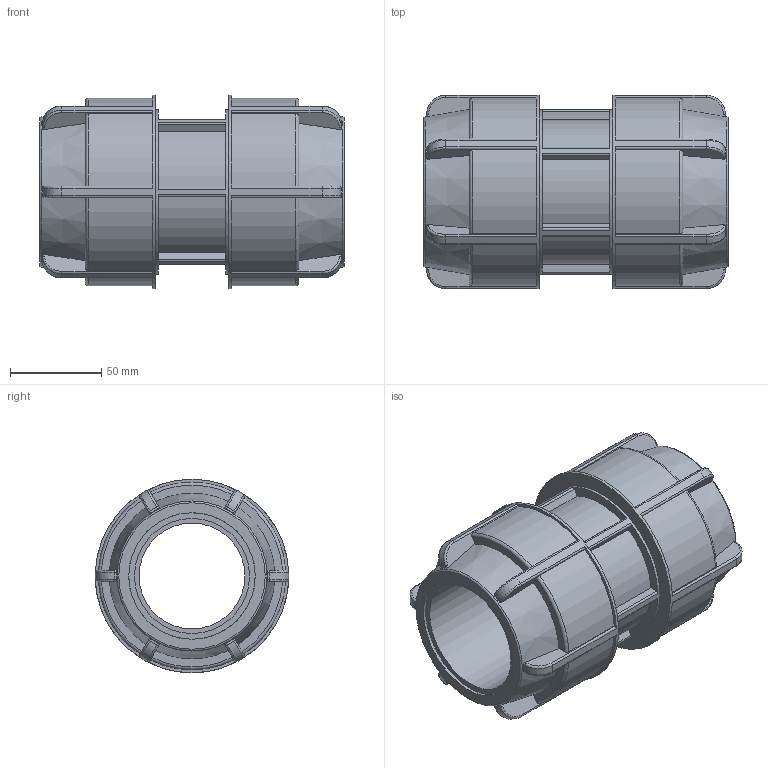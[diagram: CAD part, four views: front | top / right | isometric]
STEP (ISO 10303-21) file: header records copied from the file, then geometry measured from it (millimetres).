
FILE_DESCRIPTION(/* description */ ('PLASSON L.14 COUPLER (SILVER) 63'),/* implementation_level */ '2;1');
FILE_NAME(/* name */ 'C:\Dropbox\KIMPROJECTS-Inventor\99-16-3568-Processing\Silver Fittings\140100\140100063.ipt.stp',/* time_stamp */ '2018-06-12T15:52:45+03:00',/* author */ ('KIM'),/* organization */ (''),/* preprocessor_version */ 'ST-DEVELOPER v15.6',/* originating_system */ 'Autodesk Inventor 2015',/* authorisation */ '');
FILE_SCHEMA (('AUTOMOTIVE_DESIGN { 1 0 10303 214 3 1 1 }'));
Length unit declared in the file: millimetre
Products named in the file (1): 140100063
Bounding box: 167 x 105.99 x 106 mm (x, y, z)
Volume: 640437.8 mm3; surface area: 106381.7 mm2
Topology: 1 solids, 1 shells, 230 faces, 603 edges, 386 vertices
Faces by surface type: plane 92, cylinder 86, torus 26, bspline 24, cone 2
Full cylindrical faces by diameter (mm): 57.96 x1, 63 x2, 69.3 x2, 90.1 x1, 106 x2
Entity records: 8128 total; most frequent: CARTESIAN_POINT 2667, ORIENTED_EDGE 1164, DIRECTION 1110, EDGE_CURVE 582, AXIS2_PLACEMENT_3D 441, VERTEX_POINT 378, EDGE_LOOP 256, CIRCLE 234
